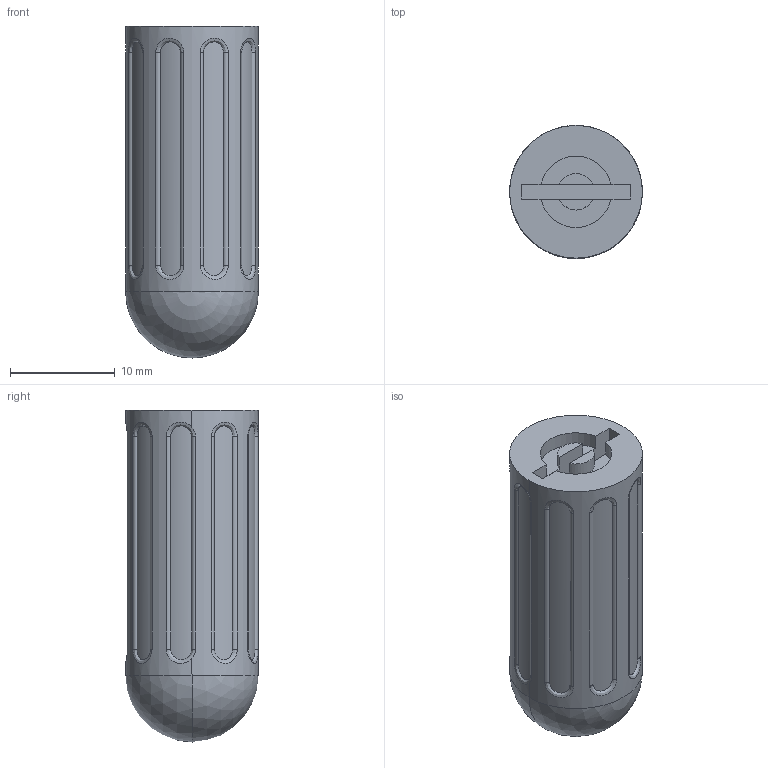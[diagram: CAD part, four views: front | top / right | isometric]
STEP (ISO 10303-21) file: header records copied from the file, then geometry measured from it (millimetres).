
FILE_DESCRIPTION (( 'STEP AP214' ), '1' );
FILE_NAME ('DDT-0020-00 JackRing 3D Printed Tool Flat V2 Handle.STEP', '2025-08-16T13:06:23', ( '' ), ( '' ), 'SwSTEP 2.0', 'SolidWorks 2025', '' );
FILE_SCHEMA (( 'AUTOMOTIVE_DESIGN' ));
Length unit declared in the file: inch
Products named in the file (1): DDT-0020-00 JackRing 3D Printed Tool Flat V2 Handle
Bounding box: 12.7 x 12.7 x 31.75 mm (x, y, z)
Volume: 3309.6 mm3; surface area: 1931.1 mm2
Topology: 1 solids, 1 shells, 63 faces, 162 edges, 107 vertices
Faces by surface type: cylinder 33, bspline 18, plane 10, sphere 2
Entity records: 3715 total; most frequent: CARTESIAN_POINT 2273, ORIENTED_EDGE 316, DIRECTION 260, EDGE_CURVE 158, VERTEX_POINT 105, AXIS2_PLACEMENT_3D 96, EDGE_LOOP 71, LINE 68
